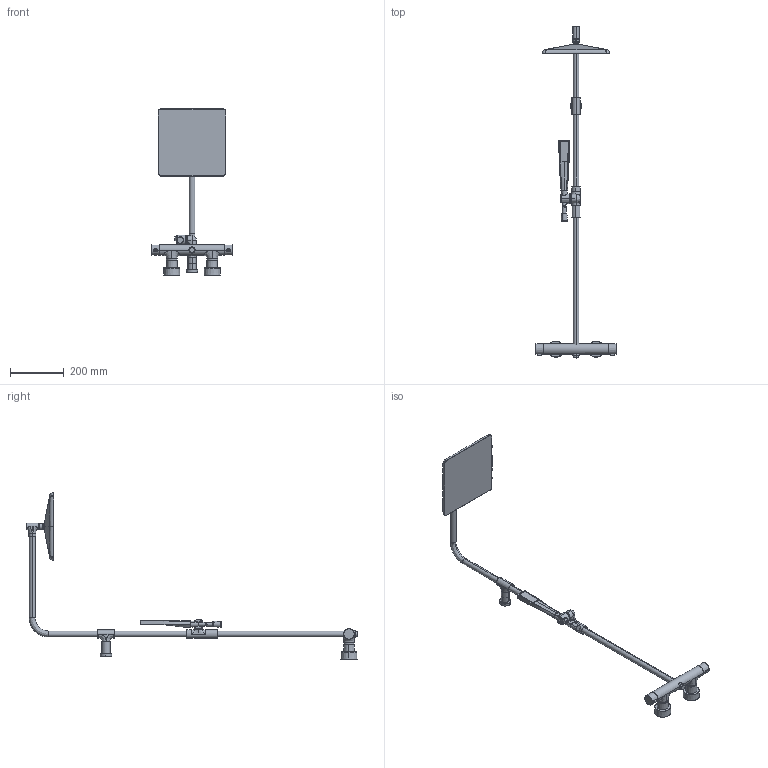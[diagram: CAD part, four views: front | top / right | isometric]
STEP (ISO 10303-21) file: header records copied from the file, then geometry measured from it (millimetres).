
FILE_DESCRIPTION (( 'STEP AP203' ), '1' );
FILE_NAME ('4796(2024).STEP', '2024-04-10T06:46:14', ( '' ), ( '' ), 'SwSTEP 2.0', 'SolidWorks 2016', '' );
FILE_SCHEMA (( 'CONFIG_CONTROL_DESIGN' ));
Length unit declared in the file: millimetre
Products named in the file (1): 4796(2024)
Bounding box: 299.88 x 1233.59 x 618.45 mm (x, y, z)
Volume: 3019209.9 mm3; surface area: 410466.8 mm2
Topology: 23 solids, 23 shells, 519 faces, 1260 edges, 784 vertices
Faces by surface type: bspline 301, plane 72, cylinder 71, cone 36, sphere 22, torus 17
Entity records: 40653 total; most frequent: CARTESIAN_POINT 30366, ORIENTED_EDGE 2492, DIRECTION 1697, EDGE_CURVE 1246, VERTEX_POINT 784, AXIS2_PLACEMENT_3D 753, CIRCLE 534, EDGE_LOOP 530
